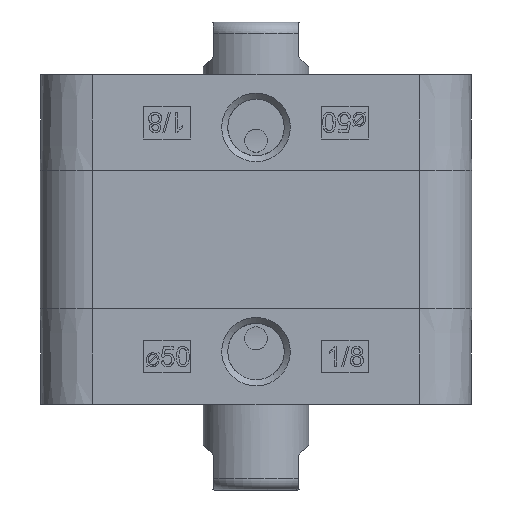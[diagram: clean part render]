
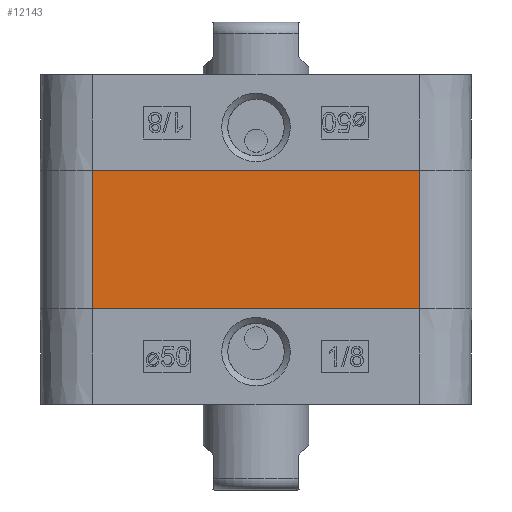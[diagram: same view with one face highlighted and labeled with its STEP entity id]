
A CAD part, left-side view. The second image highlights one B-rep face of the part: STEP entity #12143.
In plain terms, the highlighted planar face has unit normal (-1, 0, 0).
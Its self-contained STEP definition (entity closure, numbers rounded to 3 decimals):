
#1265=ORIENTED_EDGE('',*,*,#4848,.T.);
#1266=ORIENTED_EDGE('',*,*,#4847,.F.);
#1267=ORIENTED_EDGE('',*,*,#4849,.T.);
#1268=ORIENTED_EDGE('',*,*,#4850,.T.);
#4847=EDGE_CURVE('',#6638,#6637,#7872,.T.);
#4848=EDGE_CURVE('',#6639,#6637,#7873,.T.);
#4849=EDGE_CURVE('',#6638,#6640,#7874,.T.);
#4850=EDGE_CURVE('',#6640,#6639,#7875,.T.);
#6637=VERTEX_POINT('',#22043);
#6638=VERTEX_POINT('',#22045);
#6639=VERTEX_POINT('',#22049);
#6640=VERTEX_POINT('',#22051);
#7872=LINE('',#22046,#8888);
#7873=LINE('',#22048,#8889);
#7874=LINE('',#22050,#8890);
#7875=LINE('',#22052,#8891);
#8888=VECTOR('',#18698,1000.);
#8889=VECTOR('',#18701,1000.);
#8890=VECTOR('',#18702,1000.);
#8891=VECTOR('',#18703,1000.);
#9897=EDGE_LOOP('',(#1265,#1266,#1267,#1268));
#10851=FACE_BOUND('',#9897,.T.);
#11803=PLANE('',#17511);
#12143=ADVANCED_FACE('',(#10851),#11803,.T.);
#17511=AXIS2_PLACEMENT_3D('',#22047,#18699,#18700);
#18698=DIRECTION('',(0.,0.,1.));
#18699=DIRECTION('',(-1.,0.,0.));
#18700=DIRECTION('',(0.,0.,1.));
#18701=DIRECTION('',(0.,1.,0.));
#18702=DIRECTION('',(0.,-1.,0.));
#18703=DIRECTION('',(0.,0.,1.));
#22043=CARTESIAN_POINT('',(-32.75,24.75,21.));
#22045=CARTESIAN_POINT('',(-32.75,24.75,0.));
#22046=CARTESIAN_POINT('',(-32.75,24.75,0.));
#22047=CARTESIAN_POINT('',(-32.75,-24.75,0.));
#22048=CARTESIAN_POINT('',(-32.75,-24.75,21.));
#22049=CARTESIAN_POINT('',(-32.75,-24.75,21.));
#22050=CARTESIAN_POINT('',(-32.75,24.75,0.));
#22051=CARTESIAN_POINT('',(-32.75,-24.75,0.));
#22052=CARTESIAN_POINT('',(-32.75,-24.75,0.));
